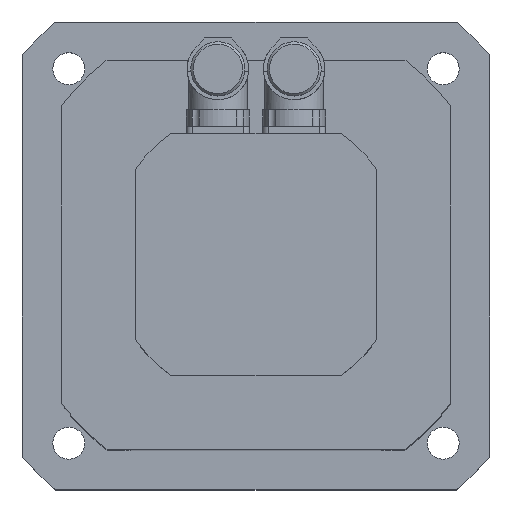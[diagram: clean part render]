
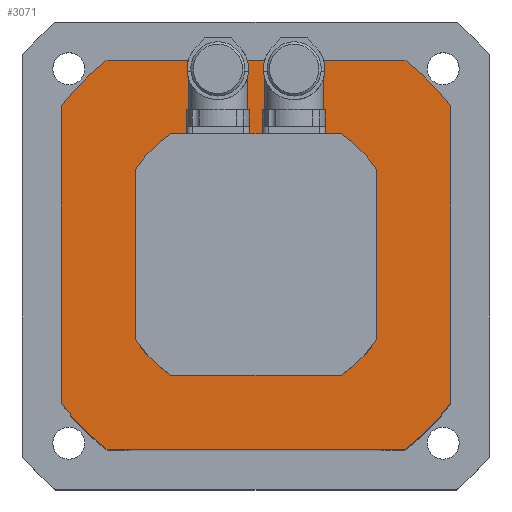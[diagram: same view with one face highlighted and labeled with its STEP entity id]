
A CAD part, top view. The second image highlights one B-rep face of the part: STEP entity #3071.
In plain terms, the highlighted planar face has unit normal (0, 0, 1).
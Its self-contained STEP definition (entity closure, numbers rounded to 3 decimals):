
#691=CIRCLE('',#3263,99.5);
#693=CIRCLE('',#3267,99.5);
#696=CIRCLE('',#3274,99.5);
#697=CIRCLE('',#3276,99.5);
#884=VERTEX_POINT('',#4618);
#885=VERTEX_POINT('',#4620);
#887=VERTEX_POINT('',#4626);
#889=VERTEX_POINT('',#4632);
#891=VERTEX_POINT('',#4638);
#894=VERTEX_POINT('',#4645);
#895=VERTEX_POINT('',#4647);
#897=VERTEX_POINT('',#4653);
#1133=VECTOR('',#3723,1.);
#1138=VECTOR('',#3735,1.);
#1142=VECTOR('',#3746,1.);
#1146=VECTOR('',#3751,1.);
#1344=LINE('',#4619,#1133);
#1349=LINE('',#4633,#1138);
#1353=LINE('',#4646,#1142);
#1357=LINE('',#4654,#1146);
#1607=EDGE_CURVE('',#885,#884,#1344,.T.);
#1611=EDGE_CURVE('',#884,#887,#691,.T.);
#1614=EDGE_CURVE('',#887,#889,#1349,.T.);
#1617=EDGE_CURVE('',#889,#891,#693,.T.);
#1620=EDGE_CURVE('',#895,#894,#1353,.T.);
#1624=EDGE_CURVE('',#891,#897,#1357,.T.);
#1627=EDGE_CURVE('',#894,#885,#696,.T.);
#1628=EDGE_CURVE('',#897,#895,#697,.T.);
#2154=ORIENTED_EDGE('',*,*,#1624,.T.);
#2155=ORIENTED_EDGE('',*,*,#1628,.T.);
#2156=ORIENTED_EDGE('',*,*,#1620,.T.);
#2157=ORIENTED_EDGE('',*,*,#1627,.T.);
#2158=ORIENTED_EDGE('',*,*,#1607,.T.);
#2159=ORIENTED_EDGE('',*,*,#1611,.T.);
#2160=ORIENTED_EDGE('',*,*,#1614,.T.);
#2161=ORIENTED_EDGE('',*,*,#1617,.T.);
#2676=EDGE_LOOP('',(#2154,#2155,#2156,#2157,#2158,#2159,#2160,#2161));
#2886=FACE_BOUND('',#2676,.T.);
#3071=ADVANCED_FACE('',(#2886),#5581,.T.);
#3263=AXIS2_PLACEMENT_3D('',#4627,#3730,#3731);
#3267=AXIS2_PLACEMENT_3D('',#4639,#3741,#3742);
#3274=AXIS2_PLACEMENT_3D('',#4659,#3759,#3760);
#3275=AXIS2_PLACEMENT_3D('',#4660,#3761,$);
#3276=AXIS2_PLACEMENT_3D('',#4661,#3762,#3763);
#3723=DIRECTION('',(0.,-1.,0.));
#3730=DIRECTION('',(0.,0.,1.));
#3731=DIRECTION('',(99.5,0.,0.));
#3735=DIRECTION('',(1.,0.,0.));
#3741=DIRECTION('',(0.,0.,1.));
#3742=DIRECTION('',(99.5,0.,0.));
#3746=DIRECTION('',(-1.,0.,0.));
#3751=DIRECTION('',(0.,1.,0.));
#3759=DIRECTION('',(0.,0.,1.));
#3760=DIRECTION('',(99.5,0.,0.));
#3761=DIRECTION('',(0.,0.,1.));
#3762=DIRECTION('',(0.,0.,1.));
#3763=DIRECTION('',(99.5,0.,0.));
#4618=CARTESIAN_POINT('',(-79.,-60.492,0.));
#4619=CARTESIAN_POINT('',(-79.,60.492,0.));
#4620=CARTESIAN_POINT('',(-79.,60.492,0.));
#4626=CARTESIAN_POINT('',(-60.492,-79.,0.));
#4627=CARTESIAN_POINT('',(0.,0.,0.));
#4632=CARTESIAN_POINT('',(60.492,-79.,0.));
#4633=CARTESIAN_POINT('',(-60.492,-79.,0.));
#4638=CARTESIAN_POINT('',(79.,-60.492,0.));
#4639=CARTESIAN_POINT('',(0.,0.,0.));
#4645=CARTESIAN_POINT('',(-60.492,79.,0.));
#4646=CARTESIAN_POINT('',(60.492,79.,0.));
#4647=CARTESIAN_POINT('',(60.492,79.,0.));
#4653=CARTESIAN_POINT('',(79.,60.492,0.));
#4654=CARTESIAN_POINT('',(79.,-60.492,0.));
#4659=CARTESIAN_POINT('',(0.,0.,0.));
#4660=CARTESIAN_POINT('',(0.,0.,0.));
#4661=CARTESIAN_POINT('',(0.,0.,0.));
#5581=PLANE('',#3275);
